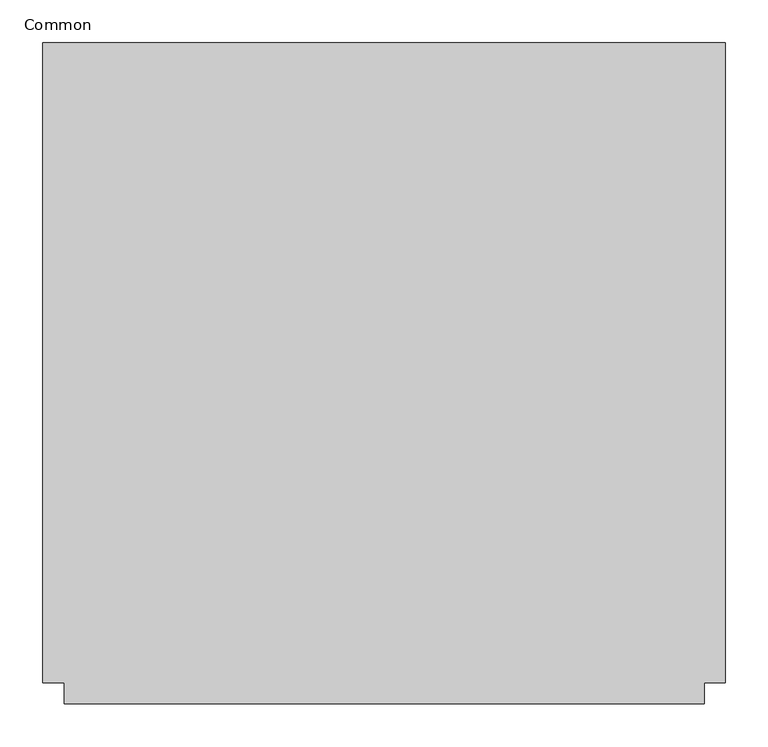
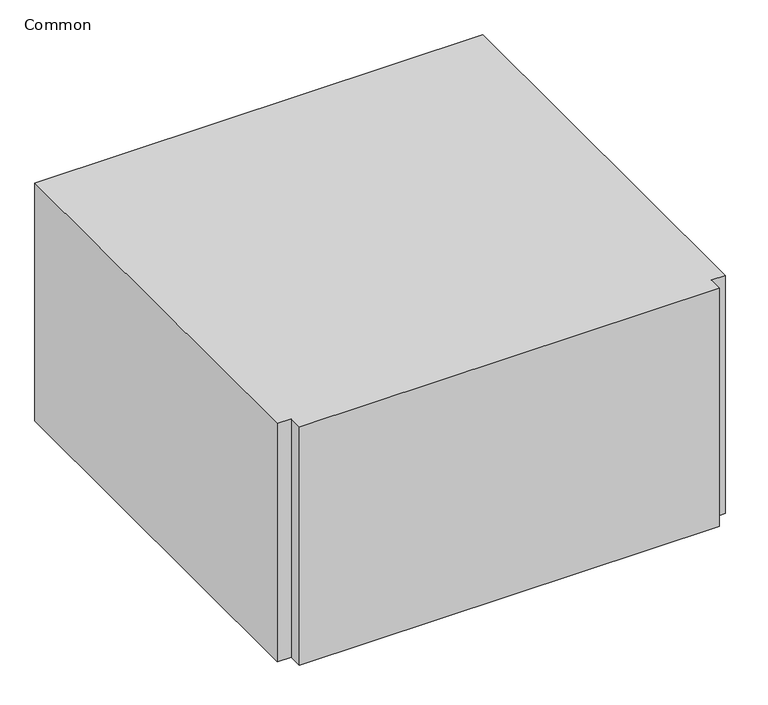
"""IFC4 building model written with IfcOpenShell, lengths in millimetres: duct fitting geometry, 022_角形片側分岐 : Common."""

from ifc_helpers import new_model, si_unit, frame, origin, place, context, project, spatial, polyline, outline, extrude, source, transform, mapped, element, save


def common_09c9345b(model_context):
    return source(origin(), model_context, "Body", "SweptSolid", [
        extrude(outline(polyline([(-400.0, -375.0), (-400.0, 375.0), (400.0, 375.0), (400.0, -375.0), (375.0, -375.0), (375.0, -400.0), (-375.0, -400.0), (-375.0, -375.0), (-400.0, -375.0)])), frame((0.0, 0.0, -225.0), z_axis=(0.0, 0.0, 1.0), x_axis=(1.0, 0.0, 0.0)), (0.0, 0.0, 1.0), 450.0),
    ])


if __name__ == "__main__":
    model = new_model("IFC4")
    model_context = context("Model", 3, world=origin())
    ifc_project = project(units=[si_unit("LENGTHUNIT", "METRE", prefix="MILLI")], contexts=[model_context])
    site = spatial("IfcSite", under=ifc_project)
    building = spatial("IfcBuilding", under=site)
    placement = place(None, origin())
    common_shape = common_09c9345b(model_context)
    element("IfcDuctFitting", 1, ObjectType="022_角形片側分岐 : Common", at=placement, inside=building, context=model_context, shape_type="MappedRepresentation", body=[
        mapped(common_shape, transform((0.0, 0.0, 0.0), x_axis=(1.0, 0.0, 0.0), y_axis=(0.0, 1.0, 0.0), z_axis=(0.0, 0.0, 1.0))),
    ])
    save(model, "model.ifc")
